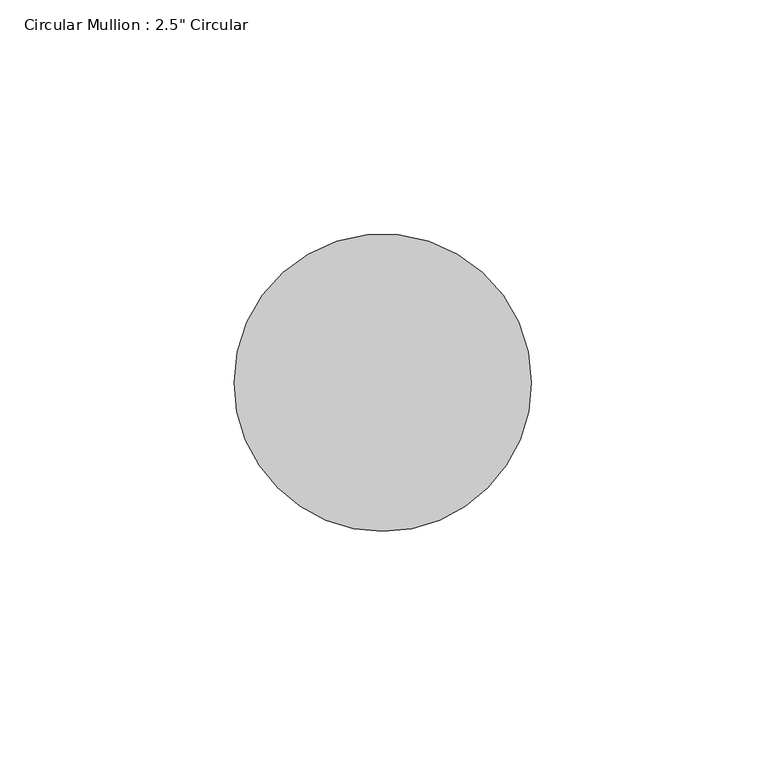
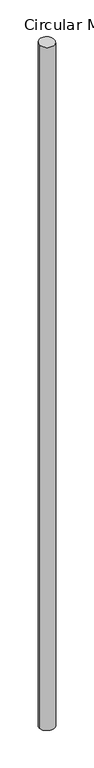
"""IFC4 building model written with IfcOpenShell, lengths in millimetres: member geometry."""

from ifc_helpers import new_model, si_unit, frame, origin, place, context, project, spatial, ellipse_curve, source, transform, mapped, element, save
from ifc_brep_helpers import plane_surface, cylinder_surface, advanced_brep


def member_5840a038(model_context):
    return source(origin(), model_context, "Body", "AdvancedBrep", [
        advanced_brep(
        [(-63.5, 0.0, -1.0610961), (0.0, 0.0, 0.0), (0.0, 0.0, -3035.0386381), (-63.5, 0.0, -3034.0138171)],
        [
            (0, 1, ellipse_curve(frame((-31.75, 0.0, -0.5305481), z_axis=(0.016681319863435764, 0.05632357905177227, -0.9982732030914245), x_axis=(0.2834860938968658, 0.9571755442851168, 0.058741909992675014)), 31.8049206, 31.75)),
            (1, 2),
            (2, 3, ellipse_curve(frame((-31.75, 0.0, -3034.5262276), z_axis=(0.016112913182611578, 0.054404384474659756, 0.9983889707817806), x_axis=(-0.2835189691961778, -0.9572865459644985, 0.05674031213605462)), 31.8012327, 31.75)),
            (3, 0),
            (1, 0, ellipse_curve(frame((-31.75, 0.0, -0.5305481), z_axis=(0.016681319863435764, 0.05632357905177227, -0.9982732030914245), x_axis=(0.2834860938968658, 0.9571755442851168, 0.058741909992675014)), 31.8049206, 31.75)),
            (3, 2, ellipse_curve(frame((-31.75, 0.0, -3034.5262276), z_axis=(0.016112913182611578, 0.054404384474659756, 0.9983889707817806), x_axis=(-0.2835189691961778, -0.9572865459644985, 0.05674031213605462)), 31.8012327, 31.75)),
        ],
        [
            cylinder_surface(frame((-31.75, 0.0, 0.0), z_axis=(0.0, 0.0, 1.0), x_axis=(1.0, 0.0, 0.0)), 31.75),
            plane_surface(frame((292.2517653, -86.5560261, 0.0), z_axis=(-0.016681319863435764, -0.05632357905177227, 0.9982732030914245), x_axis=(-0.28348609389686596, -0.957175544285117, -0.058741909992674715))),
            plane_surface(frame((292.2517653, -86.5560261, -3035.0386381), z_axis=(-0.016112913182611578, -0.054404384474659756, -0.9983889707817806), x_axis=(-0.28351896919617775, -0.9572865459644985, 0.05674031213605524))),
        ],
        [
            (0, [[1, 2, 3, 4]]),
            (0, [[5, -4, 6, -2]]),
            (1, [[-1, -5]]),
            (2, [[-6, -3]]),
        ],
    ),
    ])


if __name__ == "__main__":
    model = new_model("IFC4")
    model_context = context("Model", 3, world=origin())
    ifc_project = project(units=[si_unit("LENGTHUNIT", "METRE", prefix="MILLI")], contexts=[model_context])
    site = spatial("IfcSite", under=ifc_project)
    building = spatial("IfcBuilding", under=site)
    placement = place(None, origin())
    member_shape = member_5840a038(model_context)
    element("IfcMember", 1, ObjectType="Circular Mullion : 2.5\" Circular", at=placement, inside=building, context=model_context, shape_type="MappedRepresentation", body=[
        mapped(member_shape, transform((0.0, 0.0, 0.0), x_axis=(1.0, 0.0, 0.0), y_axis=(0.0, 1.0, 0.0), z_axis=(0.0, 0.0, 1.0))),
    ])
    save(model, "model.ifc")
